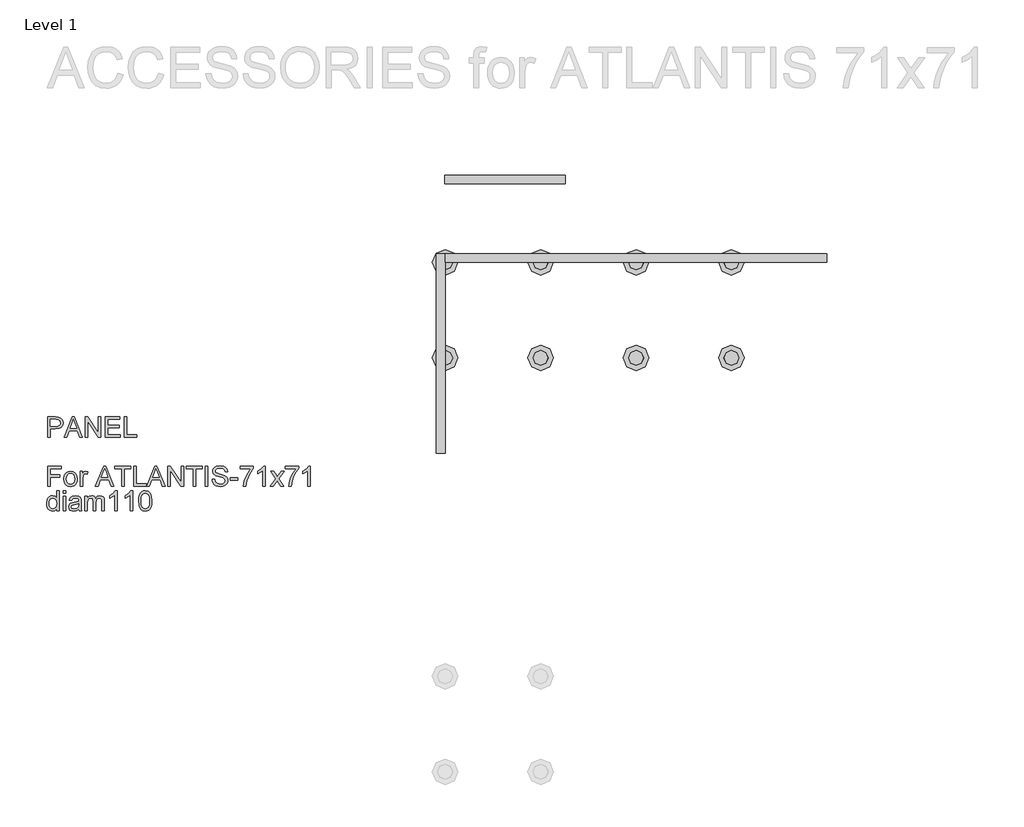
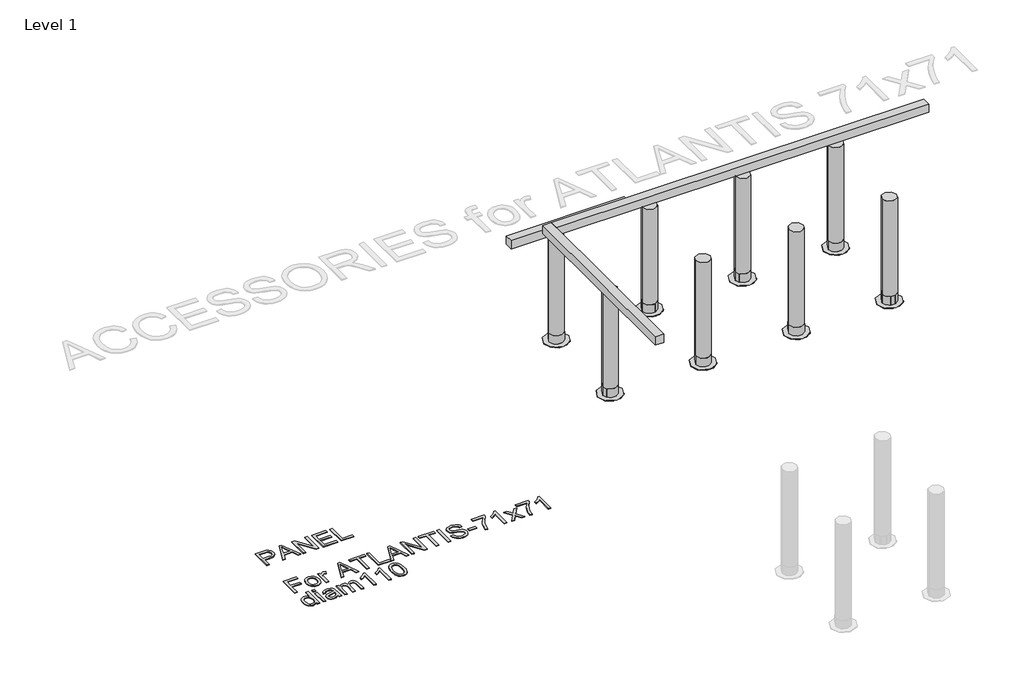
# One storey, part 3 of 6: 20 proxies.
"""IFC4 building model written with IfcOpenShell, lengths in millimetres."""

import ifcopenshell
import ifcopenshell.guid

model = None  # the IFC model being written
_history = None  # IfcOwnerHistory: only IFC2X3 demands one
_inside = {}  # id of a spatial element -> (the spatial element, [elements in it])
_under = {}  # id of a project, library or spatial element -> (it, [spatial elements below it])
_declared = {}  # id of a project -> (the project, [libraries it declares])
_typed = {}  # id of a type object -> (the type object, [elements of that type])
_made_of = {}  # id of a material, layer set ... -> (it, [elements and type objects made of it])


def new_model(schema):
    """Start an empty IFC model of exactly this schema.

    Asked for "IFC4X3", IfcOpenShell would pick the latest addendum, in which some entities
    have other attributes; the version numbers below select the first issue.
    IFC2X3 requires an IfcOwnerHistory on every rooted entity: one is made here for all.
    """
    global model, _history
    if schema == "IFC4X3":
        model = ifcopenshell.file(schema_version=(4, 3, 0, 0))
    else:
        model = ifcopenshell.file(schema=schema)
    _inside.clear()
    _under.clear()
    _declared.clear()
    _typed.clear()
    _made_of.clear()
    _history = None
    if model.schema == "IFC2X3":
        org = make("IfcOrganization", Name="unknown")
        user = make(
            "IfcPersonAndOrganization",
            ThePerson=make("IfcPerson", FamilyName="unknown"),
            TheOrganization=org,
        )
        app = make(
            "IfcApplication",
            ApplicationDeveloper=org,
            Version="unknown",
            ApplicationFullName="unknown",
            ApplicationIdentifier="unknown",
        )
        _history = make(
            "IfcOwnerHistory",
            OwningUser=user,
            OwningApplication=app,
            ChangeAction="ADDED",
            CreationDate=0,
        )
    return model


def make(cls, **values):
    """One entity of the class cls with the attributes given. An attribute that is None is left unset."""
    return model.create_entity(
        cls, **{name: value for name, value in values.items() if value is not None}
    )


def rooted(cls, **values):
    """An entity with a GlobalId (a new one), such as an element, a storey or a relation."""
    return make(cls, GlobalId=ifcopenshell.guid.new(), OwnerHistory=_history, **values)


def si_unit(unit_type, name, prefix=None):
    """IfcSIUnit, for example si_unit("LENGTHUNIT", "METRE", prefix="MILLI")."""
    return make("IfcSIUnit", UnitType=unit_type, Prefix=prefix, Name=name)


def assignment(units):
    """IfcUnitAssignment: the units of a project."""
    return None if units is None else make("IfcUnitAssignment", Units=units)


def point(xyz):
    """IfcCartesianPoint."""
    return None if xyz is None else make("IfcCartesianPoint", Coordinates=xyz)


def direction(xyz):
    """IfcDirection."""
    return None if xyz is None else make("IfcDirection", DirectionRatios=xyz)


def frame(location, z_axis=None, x_axis=None):
    """IfcAxis2Placement3D, a coordinate frame: its origin and axes. An axis left out is left unset."""
    return make(
        "IfcAxis2Placement3D",
        Location=point(location),
        Axis=direction(z_axis),
        RefDirection=direction(x_axis),
    )


def frame_2d(location, x_axis=None):
    """IfcAxis2Placement2D, a coordinate frame in the plane: its origin and x axis."""
    return make(
        "IfcAxis2Placement2D", Location=point(location), RefDirection=direction(x_axis)
    )


def origin():
    """The frame at (0, 0, 0) with its axes left unset."""
    return frame((0.0, 0.0, 0.0))


def origin_with_axes():
    """The frame at (0, 0, 0) with the z axis (0, 0, 1) and the x axis (1, 0, 0) written out."""
    return frame((0.0, 0.0, 0.0), z_axis=(0.0, 0.0, 1.0), x_axis=(1.0, 0.0, 0.0))


def origin_2d():
    """The frame at (0, 0) in the plane with its x axis left unset."""
    return frame_2d((0.0, 0.0))


def place(relative_to, where):
    """IfcLocalPlacement: puts the frame where relative to a parent placement (None: the world)."""
    return make(
        "IfcLocalPlacement", PlacementRelTo=relative_to, RelativePlacement=where
    )


def context(
    kind, dimensions, precision=None, world=None, true_north=None, identifier=None
):
    """IfcGeometricRepresentationContext, for example the 3D "Model" context."""
    return make(
        "IfcGeometricRepresentationContext",
        ContextIdentifier=identifier,
        ContextType=kind,
        CoordinateSpaceDimension=dimensions,
        Precision=precision,
        WorldCoordinateSystem=world,
        TrueNorth=true_north,
    )


def project(units=None, contexts=None):
    """IfcProject with its units and contexts."""
    return rooted(
        "IfcProject",
        Name="project",
        RepresentationContexts=contexts,
        UnitsInContext=assignment(units),
    )


def spatial(cls, under=None, at=None, **own):
    """A site, building, storey or space (cls), placed at a placement, below another one or the project."""
    s = rooted(cls, ObjectPlacement=at, **own)
    if under is not None:
        _under.setdefault(under.id(), (under, []))[1].append(s)
    return s


def polyline(points):
    """IfcPolyline through the points."""
    return make("IfcPolyline", Points=[point(p) for p in points])


def circle_curve(where, radius):
    """IfcCircle in the frame where."""
    return make("IfcCircle", Position=where, Radius=radius)


def trimmed(basis, trim1, trim2, sense, master):
    """IfcTrimmedCurve: the piece of a basis curve between two trims."""
    return make(
        "IfcTrimmedCurve",
        BasisCurve=basis,
        Trim1=trim1,
        Trim2=trim2,
        SenseAgreement=sense,
        MasterRepresentation=master,
    )


def segment(curve, same_sense, transition):
    """IfcCompositeCurveSegment."""
    return make(
        "IfcCompositeCurveSegment",
        Transition=transition,
        SameSense=same_sense,
        ParentCurve=curve,
    )


def composite_curve(segments, self_intersect=None):
    """IfcCompositeCurve: segments joined end to end."""
    return make("IfcCompositeCurve", Segments=segments, SelfIntersect=self_intersect)


def outline(outer, holes=None, kind="AREA"):
    """IfcArbitraryClosedProfileDef: a profile drawn as a closed curve; with holes, ...WithVoids."""
    if holes is None:
        return make("IfcArbitraryClosedProfileDef", ProfileType=kind, OuterCurve=outer)
    return make(
        "IfcArbitraryProfileDefWithVoids",
        ProfileType=kind,
        OuterCurve=outer,
        InnerCurves=holes,
    )


def extrude(swept, where, along, depth):
    """IfcExtrudedAreaSolid: the profile swept, set in the frame where, extruded along a direction by depth."""
    return make(
        "IfcExtrudedAreaSolid",
        SweptArea=swept,
        Position=where,
        ExtrudedDirection=direction(along),
        Depth=depth,
    )


def shape(context_of_items, identifier, shape_type, items):
    """IfcShapeRepresentation: the items that make up one representation, for example the "Body"."""
    return make(
        "IfcShapeRepresentation",
        ContextOfItems=context_of_items,
        RepresentationIdentifier=identifier,
        RepresentationType=shape_type,
        Items=items,
    )


def source(mapping_origin, context_of_items, identifier, shape_type, items):
    """IfcRepresentationMap: a shape defined once, which mapped items show again and again."""
    return make(
        "IfcRepresentationMap",
        MappingOrigin=mapping_origin,
        MappedRepresentation=shape(context_of_items, identifier, shape_type, items),
    )


def transform(
    local_origin,
    x_axis=None,
    y_axis=None,
    z_axis=None,
    scale=None,
    scale2=None,
    scale3=None,
    uniform=True,
):
    """IfcCartesianTransformationOperator3D, or its non-uniform kind. x_axis, y_axis, z_axis: its Axis1, 2, 3."""
    if uniform:
        return make(
            "IfcCartesianTransformationOperator3D",
            Axis1=direction(x_axis),
            Axis2=direction(y_axis),
            LocalOrigin=point(local_origin),
            Scale=scale,
            Axis3=direction(z_axis),
        )
    return make(
        "IfcCartesianTransformationOperator3DnonUniform",
        Axis1=direction(x_axis),
        Axis2=direction(y_axis),
        LocalOrigin=point(local_origin),
        Scale=scale,
        Axis3=direction(z_axis),
        Scale2=scale2,
        Scale3=scale3,
    )


def mapped(mapping_source, mapping_target):
    """IfcMappedItem: shows the shape of a source again, moved by a transform."""
    return make(
        "IfcMappedItem", MappingSource=mapping_source, MappingTarget=mapping_target
    )


def made_of(thing, what):
    """Note that an element or type object is made of a material, layer set ...; save() writes the relation."""
    if what is not None:
        _made_of.setdefault(what.id(), (what, []))[1].append(thing)
    return thing


def element(
    cls,
    number,
    at=None,
    inside=None,
    cuts=None,
    type_object=None,
    material=None,
    context=None,
    identifier="Body",
    shape_type=None,
    held_by="IfcProductDefinitionShape",
    body=None,
    shapes=None,
    **own,
):
    """One element of the class cls, such as IfcWall. Its Tag is "e" and its number.

    at: its placement. inside: the storey or other place that contains it. cuts: it is an
    opening in that element (IfcRelVoidsElement). A single representation is given by context,
    identifier, shape_type and body (its items); several are given by shapes. held_by: the class
    of the entity that holds the representations. save() writes the other relations.
    """
    e = rooted(cls, Tag="e%d" % number, ObjectPlacement=at, **own)
    if body is not None:
        shapes = [shape(context, identifier, shape_type, body)]
    if shapes is not None:
        e.Representation = make(held_by, Representations=shapes)
    if inside is not None:
        _inside.setdefault(inside.id(), (inside, []))[1].append(e)
    if cuts is not None:
        rooted(
            "IfcRelVoidsElement", RelatingBuildingElement=cuts, RelatedOpeningElement=e
        )
    if type_object is not None:
        _typed.setdefault(type_object.id(), (type_object, []))[1].append(e)
    return made_of(e, material)


def aggregate(whole, parts):
    """IfcRelAggregates: a whole, such as a stair, and the parts it consists of."""
    return rooted("IfcRelAggregates", RelatingObject=whole, RelatedObjects=parts)


def save(model, path):
    """Write the relations noted so far, then the file.

    IfcRelAggregates (storeys below a building ...), IfcRelContainedInSpatialStructure (elements
    in a storey), IfcRelDefinesByType, IfcRelAssociatesMaterial and IfcRelDeclares: one each for
    every whole, place, type object, material and project.
    """
    for whole, parts in _under.values():
        aggregate(whole, parts)
    for where, things in _inside.values():
        rooted(
            "IfcRelContainedInSpatialStructure",
            RelatedElements=things,
            RelatingStructure=where,
        )
    for kind, things in _typed.values():
        rooted("IfcRelDefinesByType", RelatedObjects=things, RelatingType=kind)
    for what, things in _made_of.values():
        rooted("IfcRelAssociatesMaterial", RelatedObjects=things, RelatingMaterial=what)
    for by, libraries in _declared.values():
        rooted("IfcRelDeclares", RelatingContext=by, RelatedDefinitions=libraries)
    model.write(path)


def generic_models_6a19e57f(model_context):
    return source(origin(), model_context, "Body", "SweptSolid", [
        extrude(outline(composite_curve([segment(trimmed(circle_curve(origin_2d(), 55.9), [point((-55.9, 0.0))], [point((55.9, 0.0))], False, "CARTESIAN"), True, "CONTINUOUS"), segment(trimmed(circle_curve(origin_2d(), 55.9), [point((55.9, 0.0))], [point((-55.9, 0.0))], False, "CARTESIAN"), True, "CONTINUOUS")], self_intersect=False)), frame((0.0, 0.0, 1.8), z_axis=(0.0, 0.0, 1.0), x_axis=(1.0, 0.0, 0.0)), (0.0, 0.0, 1.0), 68.2),
        extrude(outline(composite_curve([segment(trimmed(circle_curve(origin_2d(), 95.0), [point((-95.0, 0.0))], [point((95.0, 0.0))], False, "CARTESIAN"), True, "CONTINUOUS"), segment(trimmed(circle_curve(origin_2d(), 95.0), [point((95.0, 0.0))], [point((-95.0, 0.0))], False, "CARTESIAN"), True, "CONTINUOUS")], self_intersect=False)), origin_with_axes(), (0.0, 0.0, 1.0), 1.8),
    ])


def generic_models_06a1e233(model_context):
    return source(origin(), model_context, "Body", "SweptSolid", [
        extrude(outline(polyline([(0.0, -65.0), (0.0, 0.0), (900.0, 0.0), (900.0, -65.0), (0.0, -65.0)])), origin_with_axes(), (0.0, 0.0, 1.0), 65.0),
    ])


def generic_models_ce0de363(model_context):
    return source(origin(), model_context, "Body", "SweptSolid", [
        extrude(outline(composite_curve([segment(trimmed(circle_curve(origin_2d(), 55.0), [point((-55.0, 0.0))], [point((55.0, 0.0))], False, "CARTESIAN"), True, "CONTINUOUS"), segment(trimmed(circle_curve(origin_2d(), 55.0), [point((55.0, 0.0))], [point((-55.0, 0.0))], False, "CARTESIAN"), True, "CONTINUOUS")], self_intersect=False)), origin_with_axes(), (0.0, 0.0, 1.0), 840.0),
    ])


def generic_models_b361eea4(model_context):
    return source(origin(), model_context, "Body", "SweptSolid", [
        extrude(outline(polyline([(0.0, -65.0), (0.0, 0.0), (1485.0, 0.0), (1485.0, -65.0), (0.0, -65.0)])), origin_with_axes(), (0.0, 0.0, 1.0), 65.0),
    ])


def generic_models_e6750fe2(model_context):
    return source(origin(), model_context, "Body", "SweptSolid", [
        extrude(outline(polyline([(0.0, -65.0), (0.0, 0.0), (2840.0, 0.0), (2840.0, -65.0), (0.0, -65.0)])), origin_with_axes(), (0.0, 0.0, 1.0), 65.0),
    ])


model = new_model("IFC4")

# Units and contexts
model_context = context("Model", 3, world=origin())
ifc_project = project(units=[si_unit("LENGTHUNIT", "METRE", prefix="MILLI")], contexts=[model_context])

# Site, building, storey
site = spatial("IfcSite", under=ifc_project)
building = spatial("IfcBuilding", under=site)
storey = spatial("IfcBuildingStorey", under=building, Name="Level 1", Elevation=0.0)

# Proxies
placement = place(None, origin())
generic_models_shape = generic_models_6a19e57f(model_context)
element("IfcBuildingElementProxy", 1, Name="Building Materials_Other_Accessory_PIPE BASE_for ATLANTIS : PIPE BASE_Ø110", ObjectType="Building Materials_Other_Accessory_PIPE BASE_for ATLANTIS : PIPE BASE_Ø110", at=placement, inside=storey, context=model_context, shape_type="MappedRepresentation", body=[
    mapped(generic_models_shape, transform((22257.4933821, -1193.7802575, 0.0), x_axis=(1.0, 0.0, 0.0), y_axis=(0.0, 1.0, 0.0), z_axis=(0.0, 0.0, 1.0))),
])
element("IfcBuildingElementProxy", 2, Name="Building Materials_Other_Accessory_PIPE BASE_for ATLANTIS : PIPE BASE_Ø110", ObjectType="Building Materials_Other_Accessory_PIPE BASE_for ATLANTIS : PIPE BASE_Ø110", at=placement, inside=storey, context=model_context, shape_type="MappedRepresentation", body=[
    mapped(generic_models_shape, transform((22967.4933821, -1193.7802575, 0.0), x_axis=(1.0, 0.0, 0.0), y_axis=(0.0, 1.0, 0.0), z_axis=(0.0, 0.0, 1.0))),
])
element("IfcBuildingElementProxy", 3, Name="Building Materials_Other_Accessory_PIPE BASE_for ATLANTIS : PIPE BASE_Ø110", ObjectType="Building Materials_Other_Accessory_PIPE BASE_for ATLANTIS : PIPE BASE_Ø110", at=placement, inside=storey, context=model_context, shape_type="MappedRepresentation", body=[
    mapped(generic_models_shape, transform((23677.4933821, -1193.7802575, 0.0), x_axis=(1.0, 0.0, 0.0), y_axis=(0.0, 1.0, 0.0), z_axis=(0.0, 0.0, 1.0))),
])
element("IfcBuildingElementProxy", 4, Name="Building Materials_Other_Accessory_PIPE BASE_for ATLANTIS : PIPE BASE_Ø110", ObjectType="Building Materials_Other_Accessory_PIPE BASE_for ATLANTIS : PIPE BASE_Ø110", at=placement, inside=storey, context=model_context, shape_type="MappedRepresentation", body=[
    mapped(generic_models_shape, transform((24387.4933821, -1193.7802575, 0.0), x_axis=(1.0, 0.0, 0.0), y_axis=(0.0, 1.0, 0.0), z_axis=(0.0, 0.0, 1.0))),
])
element("IfcBuildingElementProxy", 5, Name="Building Materials_Other_Accessory_PIPE BASE_for ATLANTIS : PIPE BASE_Ø110", ObjectType="Building Materials_Other_Accessory_PIPE BASE_for ATLANTIS : PIPE BASE_Ø110", at=placement, inside=storey, context=model_context, shape_type="MappedRepresentation", body=[
    mapped(generic_models_shape, transform((22257.4933821, -1903.7802575, 0.0), x_axis=(1.0, 0.0, 0.0), y_axis=(0.0, 1.0, 0.0), z_axis=(0.0, 0.0, 1.0))),
])
element("IfcBuildingElementProxy", 6, Name="Building Materials_Other_Accessory_PIPE BASE_for ATLANTIS : PIPE BASE_Ø110", ObjectType="Building Materials_Other_Accessory_PIPE BASE_for ATLANTIS : PIPE BASE_Ø110", at=placement, inside=storey, context=model_context, shape_type="MappedRepresentation", body=[
    mapped(generic_models_shape, transform((22967.4933821, -1903.7802575, 0.0), x_axis=(1.0, 0.0, 0.0), y_axis=(0.0, 1.0, 0.0), z_axis=(0.0, 0.0, 1.0))),
])
element("IfcBuildingElementProxy", 7, Name="Building Materials_Other_Accessory_PIPE BASE_for ATLANTIS : PIPE BASE_Ø110", ObjectType="Building Materials_Other_Accessory_PIPE BASE_for ATLANTIS : PIPE BASE_Ø110", at=placement, inside=storey, context=model_context, shape_type="MappedRepresentation", body=[
    mapped(generic_models_shape, transform((23677.4933821, -1903.7802575, 0.0), x_axis=(1.0, 0.0, 0.0), y_axis=(0.0, 1.0, 0.0), z_axis=(0.0, 0.0, 1.0))),
])
element("IfcBuildingElementProxy", 8, Name="Building Materials_Other_Accessory_PIPE BASE_for ATLANTIS : PIPE BASE_Ø110", ObjectType="Building Materials_Other_Accessory_PIPE BASE_for ATLANTIS : PIPE BASE_Ø110", at=placement, inside=storey, context=model_context, shape_type="MappedRepresentation", body=[
    mapped(generic_models_shape, transform((24387.4933821, -1903.7802575, 0.0), x_axis=(1.0, 0.0, 0.0), y_axis=(0.0, 1.0, 0.0), z_axis=(0.0, 0.0, 1.0))),
])
generic_models_2_shape = generic_models_06a1e233(model_context)
element("IfcBuildingElementProxy", 9, Name="Building-Materials_Other_Daliform_Simple-Family_Accessory_PANEL_for ATLANTIS : PANEL_ATLANTIS-100_diam110_6.5x90x6.5", ObjectType="Building-Materials_Other_Daliform_Simple-Family_Accessory_PANEL_for ATLANTIS : PANEL_ATLANTIS-100_diam110_6.5x90x6.5", at=placement, inside=storey, context=model_context, shape_type="MappedRepresentation", body=[
    mapped(generic_models_2_shape, transform((22252.4933821, -543.7802575, 380.0), x_axis=(1.0, 0.0, 0.0), y_axis=(0.0, 1.0, 0.0), z_axis=(0.0, 0.0, 1.0))),
])
generic_models_3_shape = generic_models_ce0de363(model_context)
element("IfcBuildingElementProxy", 10, Name="Building Materials_Other_Accessory_LEG_for ATLANTIS : LEG_Ø110", ObjectType="Building Materials_Other_Accessory_LEG_for ATLANTIS : LEG_Ø110", at=placement, inside=storey, context=model_context, shape_type="MappedRepresentation", body=[
    mapped(generic_models_3_shape, transform((22257.4933821, -1193.7802575, 0.0), x_axis=(1.0, 0.0, 0.0), y_axis=(0.0, 1.0, 0.0), z_axis=(0.0, 0.0, 1.0))),
])
element("IfcBuildingElementProxy", 11, Name="Building Materials_Other_Accessory_LEG_for ATLANTIS : LEG_Ø110", ObjectType="Building Materials_Other_Accessory_LEG_for ATLANTIS : LEG_Ø110", at=placement, inside=storey, context=model_context, shape_type="MappedRepresentation", body=[
    mapped(generic_models_3_shape, transform((22967.4933821, -1193.7802575, 0.0), x_axis=(1.0, 0.0, 0.0), y_axis=(0.0, 1.0, 0.0), z_axis=(0.0, 0.0, 1.0))),
])
element("IfcBuildingElementProxy", 12, Name="Building Materials_Other_Accessory_LEG_for ATLANTIS : LEG_Ø110", ObjectType="Building Materials_Other_Accessory_LEG_for ATLANTIS : LEG_Ø110", at=placement, inside=storey, context=model_context, shape_type="MappedRepresentation", body=[
    mapped(generic_models_3_shape, transform((23677.4933821, -1193.7802575, 0.0), x_axis=(1.0, 0.0, 0.0), y_axis=(0.0, 1.0, 0.0), z_axis=(0.0, 0.0, 1.0))),
])
element("IfcBuildingElementProxy", 13, Name="Building Materials_Other_Accessory_LEG_for ATLANTIS : LEG_Ø110", ObjectType="Building Materials_Other_Accessory_LEG_for ATLANTIS : LEG_Ø110", at=placement, inside=storey, context=model_context, shape_type="MappedRepresentation", body=[
    mapped(generic_models_3_shape, transform((24387.4933821, -1193.7802575, 0.0), x_axis=(1.0, 0.0, 0.0), y_axis=(0.0, 1.0, 0.0), z_axis=(0.0, 0.0, 1.0))),
])
element("IfcBuildingElementProxy", 14, Name="Building Materials_Other_Accessory_LEG_for ATLANTIS : LEG_Ø110", ObjectType="Building Materials_Other_Accessory_LEG_for ATLANTIS : LEG_Ø110", at=placement, inside=storey, context=model_context, shape_type="MappedRepresentation", body=[
    mapped(generic_models_3_shape, transform((22257.4933821, -1903.7802575, 0.0), x_axis=(1.0, 0.0, 0.0), y_axis=(0.0, 1.0, 0.0), z_axis=(0.0, 0.0, 1.0))),
])
element("IfcBuildingElementProxy", 15, Name="Building Materials_Other_Accessory_LEG_for ATLANTIS : LEG_Ø110", ObjectType="Building Materials_Other_Accessory_LEG_for ATLANTIS : LEG_Ø110", at=placement, inside=storey, context=model_context, shape_type="MappedRepresentation", body=[
    mapped(generic_models_3_shape, transform((22967.4933821, -1903.7802575, 0.0), x_axis=(1.0, 0.0, 0.0), y_axis=(0.0, 1.0, 0.0), z_axis=(0.0, 0.0, 1.0))),
])
element("IfcBuildingElementProxy", 16, Name="Building Materials_Other_Accessory_LEG_for ATLANTIS : LEG_Ø110", ObjectType="Building Materials_Other_Accessory_LEG_for ATLANTIS : LEG_Ø110", at=placement, inside=storey, context=model_context, shape_type="MappedRepresentation", body=[
    mapped(generic_models_3_shape, transform((23677.4933821, -1903.7802575, 0.0), x_axis=(1.0, 0.0, 0.0), y_axis=(0.0, 1.0, 0.0), z_axis=(0.0, 0.0, 1.0))),
])
element("IfcBuildingElementProxy", 17, Name="Building Materials_Other_Accessory_LEG_for ATLANTIS : LEG_Ø110", ObjectType="Building Materials_Other_Accessory_LEG_for ATLANTIS : LEG_Ø110", at=placement, inside=storey, context=model_context, shape_type="MappedRepresentation", body=[
    mapped(generic_models_3_shape, transform((24387.4933821, -1903.7802575, 0.0), x_axis=(1.0, 0.0, 0.0), y_axis=(0.0, 1.0, 0.0), z_axis=(0.0, 0.0, 1.0))),
])
generic_models_4_shape = generic_models_b361eea4(model_context)
element("IfcBuildingElementProxy", 18, Name="Building-Materials_Other_Daliform_Simple-Family_Accessory_PANEL_for ATLANTIS : PANEL_ATLANTIS-100_diam110_6.5x90x6.5", ObjectType="Building-Materials_Other_Daliform_Simple-Family_Accessory_PANEL_for ATLANTIS : PANEL_ATLANTIS-100_diam110_6.5x90x6.5", at=placement, inside=storey, context=model_context, shape_type="MappedRepresentation", body=[
    mapped(generic_models_4_shape, transform((22257.4933821, -1128.7802575, 840.0), x_axis=(0.0, -1.0, 0.0), y_axis=(1.0, 0.0, 0.0), z_axis=(0.0, 0.0, 1.0))),
])
generic_models_5_shape = generic_models_e6750fe2(model_context)
element("IfcBuildingElementProxy", 19, Name="Building-Materials_Other_Daliform_Simple-Family_Accessory_PANEL_for ATLANTIS : PANEL_ATLANTIS-100_diam110_6.5x90x6.5", ObjectType="Building-Materials_Other_Daliform_Simple-Family_Accessory_PANEL_for ATLANTIS : PANEL_ATLANTIS-100_diam110_6.5x90x6.5", at=placement, inside=storey, context=model_context, shape_type="MappedRepresentation", body=[
    mapped(generic_models_5_shape, transform((22257.4933821, -1128.7802575, 840.0), x_axis=(1.0, 0.0, 0.0), y_axis=(0.0, 1.0, 0.0), z_axis=(0.0, 0.0, 1.0))),
])
element("IfcBuildingElementProxy", 20, Name="150mm Arial", ObjectType="150mm Arial", at=placement, inside=storey, context=model_context, shape_type="SweptSolid", body=[
    extrude(outline(polyline([(19300.957166, -2493.8180308), (19300.957166, -2343.1335656), (19356.8016528, -2343.1335656), (19379.3160309, -2344.5683053), (19397.6181602, -2351.6132455), (19409.4823545, -2366.1813725), (19413.9705149, -2386.727582), (19410.9400869, -2404.4870853), (19401.8488031, -2419.2851386), (19384.8480564, -2429.2731347), (19358.0892398, -2432.6024668), (19319.7927241, -2432.6024668), (19319.7927241, -2493.8180308), (19300.957166, -2493.8180308)]), holes=[polyline([(19319.7927241, -2413.7669086), (19359.1928858, -2413.7669086), (19375.8947284, -2412.0378632), (19386.9311882, -2406.8507271), (19393.0840146, -2398.527397), (19395.1349567, -2387.3897696), (19390.2973085, -2371.791573), (19377.5869856, -2363.2567107), (19358.7514274, -2361.9691237), (19319.7927241, -2361.9691237), (19319.7927241, -2413.7669086)])]), origin_with_axes(), (0.0, 0.0, 1.0), 5.0),
    extrude(outline(polyline([(19422.3214362, -2493.8180308), (19482.4701424, -2343.1335656), (19498.5097974, -2343.1335656), (19558.6585036, -2493.8180308), (19538.7560876, -2493.8180308), (19521.5024221, -2446.7291354), (19459.4407295, -2446.7291354), (19442.2238521, -2493.8180308), (19422.3214362, -2493.8180308)]), holes=[polyline([(19466.356911, -2427.8935772), (19514.6230288, -2427.8935772), (19501.0481831, -2390.8478603), (19490.4899699, -2361.9691237), (19481.108979, -2387.6104988), (19466.356911, -2427.8935772)])]), origin_with_axes(), (0.0, 0.0, 1.0), 5.0),
    extrude(outline(polyline([(19578.7816487, -2493.8180308), (19578.7816487, -2343.1335656), (19598.9415821, -2343.1335656), (19677.668329, -2462.511273), (19677.668329, -2343.1335656), (19696.5038872, -2343.1335656), (19696.5038872, -2493.8180308), (19676.3439538, -2493.8180308), (19597.6172069, -2374.4035351), (19597.6172069, -2493.8180308), (19578.7816487, -2493.8180308)])), origin_with_axes(), (0.0, 0.0, 1.0), 5.0),
    extrude(outline(polyline([(19729.4661139, -2493.8180308), (19729.4661139, -2343.1335656), (19837.7705733, -2343.1335656), (19837.7705733, -2361.9691237), (19748.3016721, -2361.9691237), (19748.3016721, -2406.7035743), (19833.0616838, -2406.7035743), (19833.0616838, -2425.5391325), (19748.3016721, -2425.5391325), (19748.3016721, -2474.9824726), (19840.1250181, -2474.9824726), (19840.1250181, -2493.8180308), (19729.4661139, -2493.8180308)])), origin_with_axes(), (0.0, 0.0, 1.0), 5.0),
    extrude(outline(polyline([(19868.3783553, -2493.8180308), (19868.3783553, -2343.1335656), (19887.2139135, -2343.1335656), (19887.2139135, -2474.9824726), (19962.5561461, -2474.9824726), (19962.5561461, -2493.8180308), (19868.3783553, -2493.8180308)])), origin_with_axes(), (0.0, 0.0, 1.0), 5.0),
    extrude(outline(polyline([(19300.957166, -2859.7424843), (19300.957166, -2709.0580191), (19402.198291, -2709.0580191), (19402.198291, -2727.8935772), (19319.7927241, -2727.8935772), (19319.7927241, -2772.6280279), (19390.4260672, -2772.6280279), (19390.4260672, -2791.463586), (19319.7927241, -2791.463586), (19319.7927241, -2859.7424843), (19300.957166, -2859.7424843)])), origin_with_axes(), (0.0, 0.0, 1.0), 5.0),
    extrude(outline(polyline([(19421.0338492, -2804.4130322), (19425.1081423, -2777.7323905), (19437.3310216, -2758.9796058), (19452.4325775, -2749.791753), (19470.5139775, -2746.7291354), (19490.3014304, -2750.4585391), (19506.1065606, -2761.6467503), (19516.4670373, -2779.4108521), (19519.9205295, -2802.8679279), (19518.3938192, -2821.8966241), (19513.8136884, -2836.3819776), (19506.3134942, -2847.229898), (19496.0265939, -2855.3462945), (19483.8083131, -2860.4092704), (19470.5139775, -2862.0969291), (19450.4874014, -2858.3813209), (19434.7006653, -2847.2344965), (19424.4505532, -2829.0979141), (19421.0338492, -2804.4130322)]), holes=[polyline([(19439.8694073, -2804.376244), (19442.0491082, -2821.422976), (19448.5882106, -2833.5676804), (19458.429054, -2840.8379483), (19470.5139775, -2843.2613709), (19482.5437188, -2840.8241527), (19492.3661681, -2833.5124981), (19498.9052705, -2821.2068453), (19501.0849713, -2803.7876328), (19498.8914749, -2787.2375416), (19492.3109858, -2775.2583841), (19482.4747409, -2767.9881162), (19470.5139775, -2765.5646935), (19458.429054, -2767.9789191), (19448.5882106, -2775.2215959), (19442.0491082, -2787.3387091), (19439.8694073, -2804.376244)])]), origin_with_axes(), (0.0, 0.0, 1.0), 5.0),
    extrude(outline(polyline([(19541.1105324, -2859.7424843), (19541.1105324, -2749.0835802), (19557.5916458, -2749.0835802), (19557.5916458, -2765.4543289), (19569.2902932, -2750.3711671), (19581.0625171, -2746.7291354), (19599.9716516, -2752.5416709), (19593.6808695, -2769.4274545), (19580.4371177, -2765.5646935), (19569.7869339, -2769.2803017), (19562.9995111, -2779.5809976), (19559.9460906, -2801.5803409), (19559.9460906, -2859.7424843), (19541.1105324, -2859.7424843)])), origin_with_axes(), (0.0, 0.0, 1.0), 5.0),
    extrude(outline(polyline([(19655.4114683, -2859.7424843), (19715.5601745, -2709.0580191), (19731.5998295, -2709.0580191), (19791.7485357, -2859.7424843), (19771.8461198, -2859.7424843), (19754.5924542, -2812.6535889), (19692.5307616, -2812.6535889), (19675.3138843, -2859.7424843), (19655.4114683, -2859.7424843)]), holes=[polyline([(19699.4469431, -2793.8180308), (19747.7130609, -2793.8180308), (19734.1382153, -2756.7723139), (19723.580002, -2727.8935772), (19714.1990111, -2753.5349523), (19699.4469431, -2793.8180308)])]), origin_with_axes(), (0.0, 0.0, 1.0), 5.0),
    extrude(outline(polyline([(19849.5427972, -2859.7424843), (19849.5427972, -2727.8935772), (19800.099457, -2727.8935772), (19800.099457, -2709.0580191), (19917.8216955, -2709.0580191), (19917.8216955, -2727.8935772), (19868.3783553, -2727.8935772), (19868.3783553, -2859.7424843), (19849.5427972, -2859.7424843)])), origin_with_axes(), (0.0, 0.0, 1.0), 5.0),
    extrude(outline(polyline([(19939.0116984, -2859.7424843), (19939.0116984, -2709.0580191), (19957.8472566, -2709.0580191), (19957.8472566, -2840.9069262), (20033.1894892, -2840.9069262), (20033.1894892, -2859.7424843), (19939.0116984, -2859.7424843)])), origin_with_axes(), (0.0, 0.0, 1.0), 5.0),
    extrude(outline(polyline([(20036.8315209, -2859.7424843), (20096.9802271, -2709.0580191), (20113.0198821, -2709.0580191), (20173.1685883, -2859.7424843), (20153.2661724, -2859.7424843), (20136.0125068, -2812.6535889), (20073.9508142, -2812.6535889), (20056.7339369, -2859.7424843), (20036.8315209, -2859.7424843)]), holes=[polyline([(20080.8669957, -2793.8180308), (20129.1331135, -2793.8180308), (20115.5582679, -2756.7723139), (20105.0000546, -2727.8935772), (20095.6190637, -2753.5349523), (20080.8669957, -2793.8180308)])]), origin_with_axes(), (0.0, 0.0, 1.0), 5.0),
    extrude(outline(polyline([(20193.2917335, -2859.7424843), (20193.2917335, -2709.0580191), (20213.4516668, -2709.0580191), (20292.1784138, -2828.4357265), (20292.1784138, -2709.0580191), (20311.0139719, -2709.0580191), (20311.0139719, -2859.7424843), (20290.8540386, -2859.7424843), (20212.1272916, -2740.3279887), (20212.1272916, -2859.7424843), (20193.2917335, -2859.7424843)])), origin_with_axes(), (0.0, 0.0, 1.0), 5.0),
    extrude(outline(polyline([(20381.647315, -2859.7424843), (20381.647315, -2727.8935772), (20332.2039748, -2727.8935772), (20332.2039748, -2709.0580191), (20449.9262133, -2709.0580191), (20449.9262133, -2727.8935772), (20400.4828732, -2727.8935772), (20400.4828732, -2859.7424843), (20381.647315, -2859.7424843)])), origin_with_axes(), (0.0, 0.0, 1.0), 5.0),
    extrude(outline(polyline([(20473.470661, -2859.7424843), (20473.470661, -2709.0580191), (20492.3062191, -2709.0580191), (20492.3062191, -2859.7424843), (20473.470661, -2859.7424843)])), origin_with_axes(), (0.0, 0.0, 1.0), 5.0),
    extrude(outline(polyline([(20522.9140011, -2807.9446994), (20541.7495593, -2807.9446994), (20547.8196122, -2826.7986516), (20562.6452566, -2838.7180283), (20585.2332111, -2843.2613709), (20604.9148979, -2839.8216743), (20617.6252208, -2830.367107), (20621.8006814, -2817.7303605), (20618.6736845, -2805.9765307), (20605.8713911, -2797.4232743), (20578.4457883, -2790.2311813), (20548.9232582, -2780.9421609), (20532.9019973, -2766.9258569), (20527.6228907, -2748.2006634), (20529.255367, -2737.168802), (20534.1527961, -2726.8819018), (20542.1864192, -2718.1630985), (20553.2274775, -2711.8355282), (20581.149721, -2706.7035743), (20610.9481626, -2712.0746514), (20622.3708985, -2718.7057244), (20630.8137903, -2727.856789), (20636.1572763, -2738.9576282), (20638.2817948, -2751.4380249), (20619.4462367, -2751.4380249), (20615.9881459, -2740.19923), (20608.7776588, -2732.087432), (20597.5112727, -2727.1762073), (20581.885485, -2725.5391325), (20565.8918152, -2727.1578132), (20554.9197347, -2732.0138556), (20548.5737703, -2739.1599633), (20546.4584488, -2747.6488404), (20547.957568, -2754.8869186), (20552.4549254, -2760.7086512), (20583.2098602, -2771.2300763), (20616.5399689, -2780.6846435), (20627.2775247, -2787.5180516), (20634.7685218, -2795.9517463), (20639.1693101, -2805.8937573), (20640.6362396, -2817.2521139), (20638.9485809, -2828.8633893), (20633.885605, -2839.7848861), (20625.6542453, -2849.1842711), (20614.4614356, -2856.2292113), (20601.0015531, -2860.6299996), (20585.9689751, -2862.0969291), (20567.5150945, -2860.5150365), (20552.3261667, -2855.7693588), (20540.2274475, -2847.8415018), (20531.0441932, -2836.7130714), (20525.1488843, -2823.1566199), (20522.9140011, -2807.9446994)])), origin_with_axes(), (0.0, 0.0, 1.0), 5.0),
    extrude(outline(polyline([(20657.117353, -2815.0080337), (20657.117353, -2796.1724755), (20715.9784722, -2796.1724755), (20715.9784722, -2815.0080337), (20657.117353, -2815.0080337)])), origin_with_axes(), (0.0, 0.0, 1.0), 5.0),
    extrude(outline(polyline([(20732.4595856, -2730.248022), (20732.4595856, -2711.4124639), (20831.3462659, -2711.4124639), (20831.3462659, -2726.6427785), (20803.2952638, -2767.1649802), (20790.9850125, -2792.6270128), (20781.8293494, -2818.7972182), (20774.8395914, -2859.7424843), (20756.0040333, -2859.7424843), (20763.4904319, -2817.2521139), (20772.2046367, -2792.7925597), (20784.0366413, -2769.2251194), (20812.5107077, -2730.248022), (20732.4595856, -2730.248022)])), origin_with_axes(), (0.0, 0.0, 1.0), 5.0),
    extrude(outline(polyline([(20918.4607224, -2859.7424843), (20899.6251642, -2859.7424843), (20899.6251642, -2742.3145515), (20881.7828874, -2755.0248744), (20861.9540479, -2764.534624), (20861.9540479, -2746.7291354), (20889.5635916, -2729.1075878), (20906.3206165, -2709.0580191), (20918.4607224, -2709.0580191), (20918.4607224, -2859.7424843)])), origin_with_axes(), (0.0, 0.0, 1.0), 5.0),
    extrude(outline(polyline([(20956.1318387, -2859.7424843), (20996.3781289, -2804.1187266), (20958.4862834, -2749.0835802), (20981.1478143, -2749.0835802), (20999.4315495, -2775.5710838), (21007.9664118, -2788.0790717), (21015.3608399, -2777.8519522), (21036.1829608, -2749.0835802), (21058.8444917, -2749.0835802), (21019.0396598, -2804.1187266), (21057.3729637, -2859.7424843), (21034.7114328, -2859.7424843), (21011.6452317, -2826.302011), (21007.4145888, -2820.1951698), (20978.7933696, -2859.7424843), (20956.1318387, -2859.7424843)])), origin_with_axes(), (0.0, 0.0, 1.0), 5.0),
    extrude(outline(polyline([(21069.1451876, -2730.248022), (21069.1451876, -2711.4124639), (21168.0318679, -2711.4124639), (21168.0318679, -2726.6427785), (21139.9808658, -2767.1649802), (21127.6706145, -2792.6270128), (21118.5149513, -2818.7972182), (21111.5251934, -2859.7424843), (21092.6896353, -2859.7424843), (21100.1760339, -2817.2521139), (21108.8902386, -2792.7925597), (21120.7222433, -2769.2251194), (21149.1963097, -2730.248022), (21069.1451876, -2730.248022)])), origin_with_axes(), (0.0, 0.0, 1.0), 5.0),
    extrude(outline(polyline([(21255.1463243, -2859.7424843), (21236.3107662, -2859.7424843), (21236.3107662, -2742.3145515), (21218.4684894, -2755.0248744), (21198.6396499, -2764.534624), (21198.6396499, -2746.7291354), (21226.2491936, -2729.1075878), (21243.0062185, -2709.0580191), (21255.1463243, -2709.0580191), (21255.1463243, -2859.7424843)])), origin_with_axes(), (0.0, 0.0, 1.0), 5.0),
    extrude(outline(polyline([(19366.8816195, -3042.7047111), (19366.8816195, -3024.9360107), (19354.4196169, -3040.0283696), (19337.1935425, -3045.0591558), (19325.0166485, -3043.23814), (19313.869824, -3037.7750923), (19304.4336508, -3029.0516905), (19297.3887106, -3017.4496121), (19293.0017178, -3003.4379066), (19291.5393869, -2987.4856236), (19296.9288581, -2957.503241), (19303.6610986, -2945.6114555), (19313.0788777, -2936.8650611), (19324.469424, -2931.4847869), (19337.1199661, -2929.6913622), (19354.4839963, -2934.823316), (19366.8816195, -2948.1590383), (19366.8816195, -2892.0202459), (19385.7171777, -2892.0202459), (19385.7171777, -3042.7047111), (19366.8816195, -3042.7047111)]), holes=[polyline([(19310.374945, -2987.4120472), (19312.4994636, -3004.4495821), (19318.8730191, -3016.5666953), (19328.1344484, -3023.8093721), (19338.9225879, -3026.2235977), (19349.7061289, -3023.9197367), (19358.7330333, -3017.0081537), (19364.844473, -3005.36009), (19366.8816195, -2988.846787), (19364.8076848, -2970.7929781), (19358.5858805, -2958.2757932), (19349.3290498, -2950.9641385), (19338.1500357, -2948.5269203), (19327.2515316, -2950.8675695), (19318.3211961, -2957.8895171), (19312.3615078, -2969.951448), (19310.374945, -2987.4120472)])]), origin_with_axes(), (0.0, 0.0, 1.0), 5.0),
    extrude(outline(polyline([(19413.9705149, -2910.855804), (19413.9705149, -2892.0202459), (19432.806073, -2892.0202459), (19432.806073, -2910.855804), (19413.9705149, -2910.855804)])), origin_with_axes(), (0.0, 0.0, 1.0), 5.0),
    extrude(outline(polyline([(19413.9705149, -3042.7047111), (19413.9705149, -2932.0458069), (19432.806073, -2932.0458069), (19432.806073, -3042.7047111), (19413.9705149, -3042.7047111)])), origin_with_axes(), (0.0, 0.0, 1.0), 5.0),
    extrude(outline(polyline([(19531.6927533, -3028.5780425), (19513.4274123, -3041.3435477), (19493.2490848, -3045.0591558), (19477.508334, -3042.8242727), (19465.8970585, -3036.1196234), (19458.7371552, -3025.9384891), (19456.3505207, -3013.2741515), (19459.9557643, -2998.3749307), (19469.4287257, -2987.5592), (19482.6172952, -2981.3787825), (19498.9144676, -2978.5460911), (19531.5823887, -2972.071368), (19531.6927533, -2967.8775133), (19530.3959693, -2959.4714097), (19526.5056172, -2953.9715738), (19517.805208, -2949.8880837), (19505.6834963, -2948.5269203), (19486.6272089, -2952.150558), (19477.5405237, -2965.0080337), (19458.7049655, -2962.6535889), (19466.8535517, -2944.2594892), (19483.2610887, -2933.4805467), (19508.1115174, -2929.6913622), (19530.9385953, -2933.0390883), (19543.8328592, -2941.4451919), (19549.6086065, -2954.2290912), (19550.5283115, -2970.7102046), (19550.5283115, -2994.1442877), (19551.4848047, -3026.8673912), (19555.237201, -3042.7047111), (19536.4016429, -3042.7047111), (19531.6927533, -3028.5780425)]), holes=[polyline([(19531.6927533, -2990.9069262), (19501.3057005, -2996.6826735), (19485.1004987, -2999.736094), (19477.7612528, -3004.702501), (19475.1860789, -3011.9497763), (19480.7962793, -3022.1401075), (19497.2589986, -3026.2235977), (19516.3152859, -3021.7170433), (19528.6025446, -3010.8093421), (19531.5823887, -2996.2412151), (19531.6927533, -2990.9069262)])]), origin_with_axes(), (0.0, 0.0, 1.0), 5.0),
    extrude(outline(polyline([(19576.427204, -3042.7047111), (19576.427204, -2932.0458069), (19595.2627621, -2932.0458069), (19595.2627621, -2950.2559657), (19608.2122083, -2935.3383508), (19626.6430963, -2929.6913622), (19637.1185361, -2931.1307005), (19645.5154426, -2935.4487154), (19655.8897149, -2951.5803409), (19670.5866006, -2935.1636068), (19689.1462473, -2929.6913622), (19703.3051056, -2931.967632), (19713.7759469, -2938.7964415), (19720.2460714, -2950.3617318), (19722.4027796, -2966.8474437), (19722.4027796, -3042.7047111), (19703.5672215, -3042.7047111), (19703.5672215, -2974.9408476), (19701.819782, -2959.2138923), (19695.4922117, -2951.4699763), (19684.7316633, -2948.5269203), (19674.5275365, -2950.4123155), (19666.2088049, -2956.0685012), (19660.6767794, -2965.8817534), (19658.8327709, -2980.2383483), (19658.8327709, -3042.7047111), (19639.9972127, -3042.7047111), (19639.9972127, -2972.8439202), (19635.6378111, -2954.5969732), (19629.8850564, -2950.0444335), (19621.3455956, -2948.5269203), (19607.4028679, -2952.5736223), (19598.1322417, -2964.4194225), (19595.2627621, -2986.8970124), (19595.2627621, -3042.7047111), (19576.427204, -3042.7047111)])), origin_with_axes(), (0.0, 0.0, 1.0), 5.0),
    extrude(outline(polyline([(19816.5805704, -3042.7047111), (19797.7450123, -3042.7047111), (19797.7450123, -2925.2767782), (19779.9027355, -2937.9871012), (19760.0738959, -2947.4968507), (19760.0738959, -2929.6913622), (19787.6834397, -2912.0698146), (19804.4404646, -2892.0202459), (19816.5805704, -2892.0202459), (19816.5805704, -3042.7047111)])), origin_with_axes(), (0.0, 0.0, 1.0), 5.0),
    extrude(outline(polyline([(19931.9483641, -3042.7047111), (19913.1128059, -3042.7047111), (19913.1128059, -2925.2767782), (19895.2705292, -2937.9871012), (19875.4416896, -2947.4968507), (19875.4416896, -2929.6913622), (19903.0512334, -2912.0698146), (19919.8082583, -2892.0202459), (19931.9483641, -2892.0202459), (19931.9483641, -3042.7047111)])), origin_with_axes(), (0.0, 0.0, 1.0), 5.0),
    extrude(outline(polyline([(19976.6828147, -2968.5764891), (19978.0669707, -2944.4572257), (19982.2194387, -2925.2215959), (19989.098832, -2910.575294), (19998.6637639, -2900.2240143), (20010.9832122, -2894.071188), (20026.1261549, -2892.0202459), (20048.1254982, -2896.8762882), (20063.3190246, -2910.8741981), (20072.1481925, -2933.167847), (20075.569495, -2968.5764891), (20074.1991346, -2992.5577966), (20070.0880533, -3011.7474412), (20063.2500467, -3026.4075387), (20053.6989104, -3036.8002051), (20041.3518709, -3042.9944182), (20026.1261549, -3045.0591558), (20006.5548327, -3041.4723064), (19991.6924001, -3030.711758), (19980.4352111, -3005.2267328), (19976.6828147, -2968.5764891)]), holes=[polyline([(19995.5183729, -2968.5397009), (19997.7256648, -2998.167997), (20004.3475407, -3015.3158965), (20014.2067782, -3023.4966724), (20026.1261549, -3026.2235977), (20038.0455315, -3023.4874754), (20047.904769, -3015.2791083), (20054.5266449, -2998.1220118), (20056.7339369, -2968.5397009), (20054.6002213, -2939.5781908), (20048.1990746, -2922.2969341), (20038.3582312, -2913.7160865), (20025.9054257, -2910.855804), (20014.1148077, -2913.3757957), (20004.6418463, -2920.9357707), (19997.7992412, -2939.2930822), (19995.5183729, -2968.5397009)])]), origin_with_axes(), (0.0, 0.0, 1.0), 5.0),
])

save(model, "model.ifc")
